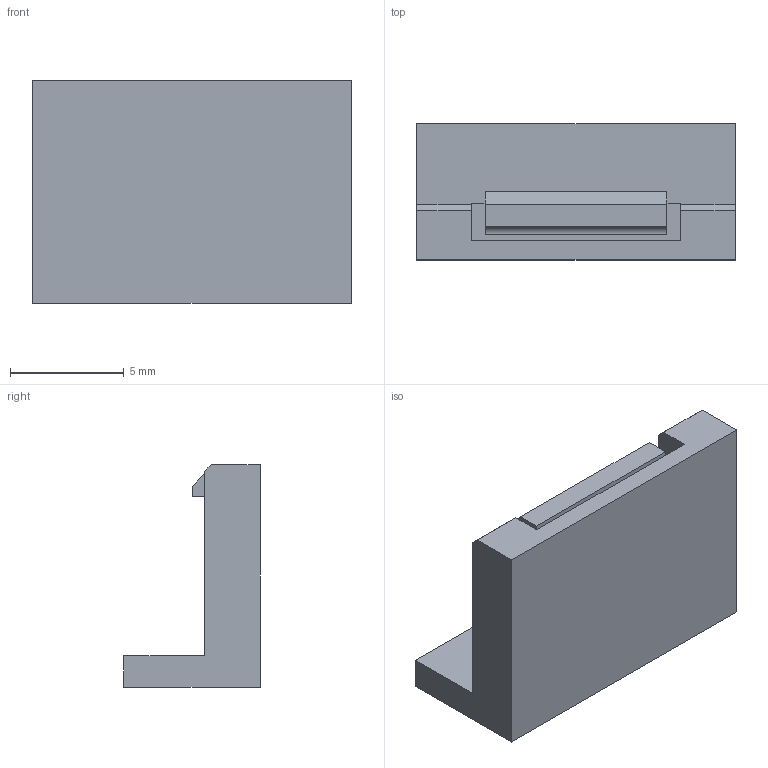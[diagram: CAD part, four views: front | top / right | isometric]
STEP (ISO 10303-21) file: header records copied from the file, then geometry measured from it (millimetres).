
FILE_DESCRIPTION(('FreeCAD Model'),'2;1');
FILE_NAME('Open CASCADE Shape Model','2026-10-03T19:08:44',('Author'),( ''),'Open CASCADE STEP processor 7.8','FreeCAD','Unknown');
FILE_SCHEMA(('AUTOMOTIVE_DESIGN { 1 0 10303 214 1 1 1 1 }'));
Length unit declared in the file: millimetre
Products named in the file (1): OPTIONAL_StrongLockV2_Joint_Lid_Test
Bounding box: 14 x 6 x 9.8 mm (x, y, z)
Volume: 347.7 mm3; surface area: 680.9 mm2
Topology: 1 solids, 1 shells, 26 faces, 72 edges, 48 vertices
Faces by surface type: bspline 26
Entity records: 755 total; most frequent: CARTESIAN_POINT 301, ORIENTED_EDGE 144, EDGE_CURVE 72, B_SPLINE_CURVE_WITH_KNOTS 70, VERTEX_POINT 48, ADVANCED_FACE 26, FACE_BOUND 26, EDGE_LOOP 26
